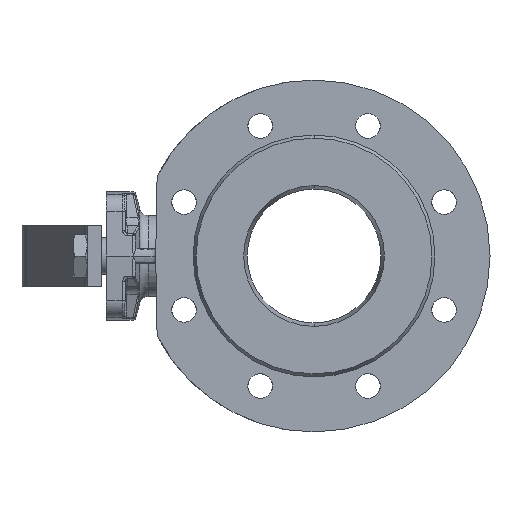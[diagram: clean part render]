
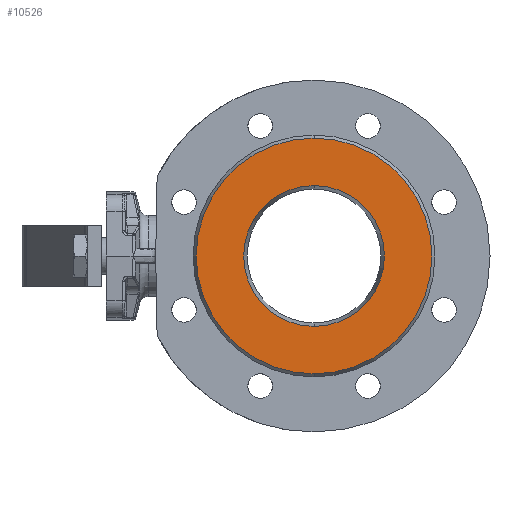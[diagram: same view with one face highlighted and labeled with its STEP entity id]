
A CAD part, left-side view. The second image highlights one B-rep face of the part: STEP entity #10526.
In plain terms, the highlighted planar face has unit normal (-1, 0, 0).
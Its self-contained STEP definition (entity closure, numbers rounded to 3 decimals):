
#2679 = AXIS2_PLACEMENT_3D ( 'NONE', #2683, #2682, #2739 ) ;
#2680 = PLANE ( 'NONE',  #2679 ) ;
#2681 = CIRCLE ( 'NONE', #2738, 67. ) ;
#2682 = DIRECTION ( 'NONE',  ( 1., 0., 0. ) ) ;
#2683 = CARTESIAN_POINT ( 'NONE',  ( -60., 40., 0. ) ) ;
#2684 = FACE_BOUND ( 'NONE', #10531, .T. ) ;
#2685 = FACE_OUTER_BOUND ( 'NONE', #10527, .T. ) ;
#2686 = DIRECTION ( 'NONE',  ( 0., 0., 1. ) ) ;
#2687 = DIRECTION ( 'NONE',  ( -1., 0., 0. ) ) ;
#2688 = CARTESIAN_POINT ( 'NONE',  ( -60., 0., 0. ) ) ;
#2689 = AXIS2_PLACEMENT_3D ( 'NONE', #2688, #2687, #2686 ) ;
#2690 = CIRCLE ( 'NONE', #2689, 40. ) ;
#2735 = DIRECTION ( 'NONE',  ( 0., 0., -1. ) ) ;
#2736 = DIRECTION ( 'NONE',  ( 1., 0., 0. ) ) ;
#2737 = CARTESIAN_POINT ( 'NONE',  ( -60., 0., 0. ) ) ;
#2738 = AXIS2_PLACEMENT_3D ( 'NONE', #2737, #2736, #2735 ) ;
#2739 = DIRECTION ( 'NONE',  ( 0., 0., -1. ) ) ;
#8348 = CARTESIAN_POINT ( 'NONE',  ( -60., 0., 0. ) ) ;
#8357 = CARTESIAN_POINT ( 'NONE',  ( -60., 0., -40. ) ) ;
#8360 = DIRECTION ( 'NONE',  ( 0., 0., 1. ) ) ;
#8361 = DIRECTION ( 'NONE',  ( -1., 0., 0. ) ) ;
#8362 = AXIS2_PLACEMENT_3D ( 'NONE', #8348, #8361, #8360 ) ;
#8363 = CIRCLE ( 'NONE', #8362, 40. ) ;
#10525 = EDGE_CURVE ( 'NONE', #21499, #21853, #2690, .T. ) ;
#10526 = ADVANCED_FACE ( 'NONE', ( #2685, #2684 ), #2680, .F. ) ;
#10527 = EDGE_LOOP ( 'NONE', ( #10528, #10529 ) ) ;
#10528 = ORIENTED_EDGE ( 'NONE', *, *, #21360, .F. ) ;
#10529 = ORIENTED_EDGE ( 'NONE', *, *, #10530, .F. ) ;
#10530 = EDGE_CURVE ( 'NONE', #21362, #21361, #2681, .T. ) ;
#10531 = EDGE_LOOP ( 'NONE', ( #10532, #10533 ) ) ;
#10532 = ORIENTED_EDGE ( 'NONE', *, *, #10525, .F. ) ;
#10533 = ORIENTED_EDGE ( 'NONE', *, *, #21860, .F. ) ;
#20326 = CARTESIAN_POINT ( 'NONE',  ( -60., 0., 67. ) ) ;
#20327 = CARTESIAN_POINT ( 'NONE',  ( -60., 0., -67. ) ) ;
#20328 = DIRECTION ( 'NONE',  ( 0., 0., -1. ) ) ;
#20329 = DIRECTION ( 'NONE',  ( 1., 0., 0. ) ) ;
#20330 = CARTESIAN_POINT ( 'NONE',  ( -60., 0., 0. ) ) ;
#20331 = AXIS2_PLACEMENT_3D ( 'NONE', #20330, #20329, #20328 ) ;
#20332 = CIRCLE ( 'NONE', #20331, 67. ) ;
#20781 = CARTESIAN_POINT ( 'NONE',  ( -60., 0., 40. ) ) ;
#21360 = EDGE_CURVE ( 'NONE', #21361, #21362, #20332, .T. ) ;
#21361 = VERTEX_POINT ( 'NONE', #20327 ) ;
#21362 = VERTEX_POINT ( 'NONE', #20326 ) ;
#21499 = VERTEX_POINT ( 'NONE', #20781 ) ;
#21853 = VERTEX_POINT ( 'NONE', #8357 ) ;
#21860 = EDGE_CURVE ( 'NONE', #21853, #21499, #8363, .T. ) ;
